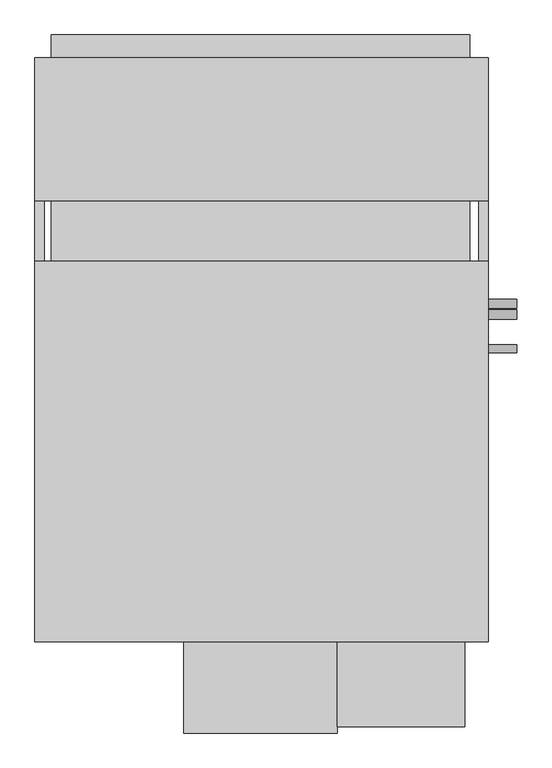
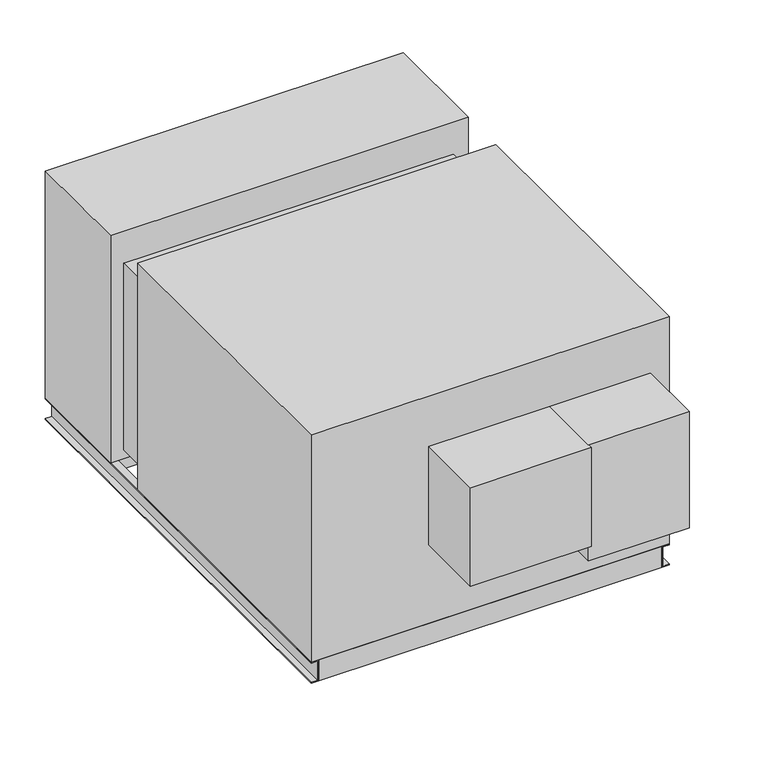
"""IFC4 building model written with IfcOpenShell, lengths in millimetres: proxy geometry, Horizontal_Direct_Drive_Blower_Coil_Unit_-_42DHA_-_CARRIER_-_2-Pipe_Cool-EHeat_NFilterR_W-MixingBox_RH_2022 : Size 30 - 460v/60Hz/3Ph - 8 Row 30.0kW LH."""

from ifc_helpers import new_model, si_unit, point, frame, frame_2d, origin, place, context, project, spatial, polyline, circle_curve, trimmed, segment, composite_curve, outline, extrude, source, transform, mapped, element, save


def mechanical_equipment_f7677014(model_context):
    return source(origin(), model_context, "Body", "SweptSolid", [
        extrude(outline(polyline([(101.6, 937.895), (101.6, 683.895), (-1022.35, 683.895), (-1022.35, 937.895), (101.6, 937.895)])), frame((0.0, 0.0, -880.11), z_axis=(0.0, 0.0, 1.0), x_axis=(1.0, 0.0, 0.0)), (0.0, 0.0, 1.0), 60.96),
        extrude(outline(polyline([(-1022.35, 1100.455), (101.6, 1100.455), (101.6, 1039.495), (-1022.35, 1039.495), (-1022.35, 1100.455)])), frame((0.0, 0.0, -330.2), z_axis=(0.0, 0.0, 1.0), x_axis=(1.0, 0.0, 0.0)), (0.0, 0.0, 1.0), 254.0),
        extrude(outline(polyline([(152.4, 1039.495), (152.4, 654.05), (-1066.8, 654.05), (-1066.8, 1039.495), (152.4, 1039.495)])), frame((0.0, 0.0, -819.15), z_axis=(0.0, 0.0, 1.0), x_axis=(1.0, 0.0, 0.0)), (0.0, 0.0, 1.0), 819.15),
        extrude(outline(polyline([(127.0, -504.825), (127.0, -530.225), (-1041.4, -530.225), (-1041.4, -504.825), (127.0, -504.825)])), frame((0.0, 0.0, -895.35), z_axis=(0.0, 0.0, 1.0), x_axis=(1.0, 0.0, 0.0)), (0.0, 0.0, 1.0), 76.2),
        extrude(outline(polyline([(127.0, 1039.495), (127.0, 1014.095), (-1041.4, 1014.095), (-1041.4, 1039.495), (127.0, 1039.495)])), frame((0.0, 0.0, -895.35), z_axis=(0.0, 0.0, 1.0), x_axis=(1.0, 0.0, 0.0)), (0.0, 0.0, 1.0), 76.2),
        extrude(outline(polyline([(-819.15, -1041.4), (-819.15, -1066.8), (-822.325, -1066.8), (-822.325, -1044.575), (-892.175, -1044.575), (-892.175, -1066.8), (-895.35, -1066.8), (-895.35, -1041.4), (-819.15, -1041.4)])), frame((0.0, -530.225, 0.0), z_axis=(0.0, 1.0, 0.0), x_axis=(0.0, 0.0, 1.0)), (0.0, 0.0, 1.0), 1569.72),
        extrude(outline(polyline([(-819.15, 127.0), (-895.35, 127.0), (-895.35, 152.4), (-892.175, 152.4), (-892.175, 130.175), (-822.325, 130.175), (-822.325, 152.4), (-819.15, 152.4), (-819.15, 127.0)])), frame((0.0, -530.225, 0.0), z_axis=(0.0, 1.0, 0.0), x_axis=(0.0, 0.0, 1.0)), (0.0, 0.0, 1.0), 1569.72),
        extrude(outline(composite_curve([segment(trimmed(circle_curve(frame_2d((377.825, -177.8)), 12.7), [point((390.525, -177.8))], [point((365.125, -177.8))], False, "CARTESIAN"), True, "CONTINUOUS"), segment(trimmed(circle_curve(frame_2d((377.825, -177.8)), 12.7), [point((365.125, -177.8))], [point((390.525, -177.8))], False, "CARTESIAN"), True, "CONTINUOUS")], self_intersect=False)), frame((152.4, 0.0, 0.0), z_axis=(1.0, 0.0, 0.0), x_axis=(0.0, 1.0, 0.0)), (0.0, 0.0, 1.0), 76.2),
        extrude(outline(composite_curve([segment(trimmed(circle_curve(frame_2d((348.9715397, -692.15)), 12.7), [point((361.6715397, -692.15))], [point((336.2715397, -692.15))], False, "CARTESIAN"), True, "CONTINUOUS"), segment(trimmed(circle_curve(frame_2d((348.9715397, -692.15)), 12.7), [point((336.2715397, -692.15))], [point((361.6715397, -692.15))], False, "CARTESIAN"), True, "CONTINUOUS")], self_intersect=False)), frame((152.4, 0.0, 0.0), z_axis=(1.0, 0.0, 0.0), x_axis=(0.0, 1.0, 0.0)), (0.0, 0.0, 1.0), 76.2),
        extrude(outline(composite_curve([segment(trimmed(circle_curve(frame_2d((257.175, -774.7)), 11.1125), [point((268.2875, -774.7))], [point((246.0625, -774.7))], False, "CARTESIAN"), True, "CONTINUOUS"), segment(trimmed(circle_curve(frame_2d((257.175, -774.7)), 11.1125), [point((246.0625, -774.7))], [point((268.2875, -774.7))], False, "CARTESIAN"), True, "CONTINUOUS")], self_intersect=False)), frame((152.4, 0.0, 0.0), z_axis=(1.0, 0.0, 0.0), x_axis=(0.0, 1.0, 0.0)), (0.0, 0.0, 1.0), 76.2),
        extrude(outline(polyline([(152.4, 492.125), (152.4, -530.225), (-1066.8, -530.225), (-1066.8, 492.125), (152.4, 492.125)])), frame((0.0, 0.0, -819.15), z_axis=(0.0, 0.0, 1.0), x_axis=(1.0, 0.0, 0.0)), (0.0, 0.0, 1.0), 819.15),
        extrude(outline(polyline([(88.9, -758.825), (-254.0, -758.825), (-254.0, -530.225), (88.9, -530.225), (88.9, -758.825)])), frame((0.0, 0.0, -600.075), z_axis=(0.0, 0.0, 1.0), x_axis=(1.0, 0.0, 0.0)), (0.0, 0.0, 1.0), 419.1),
        extrude(outline(polyline([(-1022.35, 654.05), (101.6, 654.05), (101.6, 492.125), (-1022.35, 492.125), (-1022.35, 654.05)])), frame((0.0, 0.0, -787.4), z_axis=(0.0, 0.0, 1.0), x_axis=(1.0, 0.0, 0.0)), (0.0, 0.0, 1.0), 673.1),
        extrude(outline(polyline([(-254.0, -776.2875), (-666.75, -776.2875), (-666.75, -530.225), (-254.0, -530.225), (-254.0, -776.2875)])), frame((0.0, 0.0, -536.575), z_axis=(0.0, 0.0, 1.0), x_axis=(1.0, 0.0, 0.0)), (0.0, 0.0, 1.0), 355.6),
    ])


if __name__ == "__main__":
    model = new_model("IFC4")
    model_context = context("Model", 3, world=origin())
    ifc_project = project(units=[si_unit("LENGTHUNIT", "METRE", prefix="MILLI")], contexts=[model_context])
    site = spatial("IfcSite", under=ifc_project)
    building = spatial("IfcBuilding", under=site)
    placement = place(None, origin())
    mechanical_equipment_shape = mechanical_equipment_f7677014(model_context)
    element("IfcBuildingElementProxy", 1, Name="Horizontal_Direct_Drive_Blower_Coil_Unit_-_42DHA_-_CARRIER_-_2-Pipe_Cool-EHeat_NFilterR_W-MixingBox_RH_2022 : Size 30 - 460v/60Hz/3Ph - 8 Row 30.0kW LH", ObjectType="Horizontal_Direct_Drive_Blower_Coil_Unit_-_42DHA_-_CARRIER_-_2-Pipe_Cool-EHeat_NFilterR_W-MixingBox_RH_2022 : Size 30 - 460v/60Hz/3Ph - 8 Row 30.0kW LH", at=placement, inside=building, context=model_context, shape_type="MappedRepresentation", body=[
        mapped(mechanical_equipment_shape, transform((0.0, 0.0, 0.0), x_axis=(1.0, 0.0, 0.0), y_axis=(0.0, 1.0, 0.0), z_axis=(0.0, 0.0, 1.0))),
    ])
    save(model, "model.ifc")
